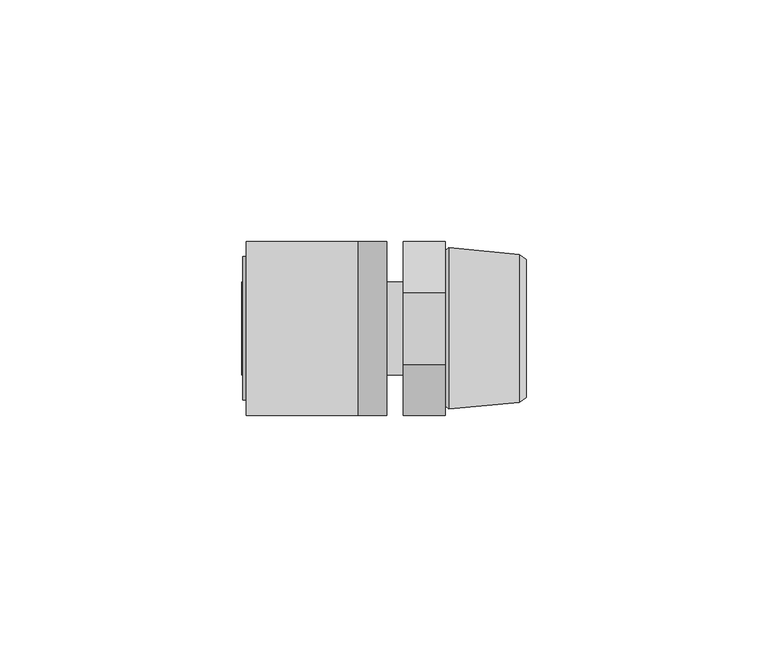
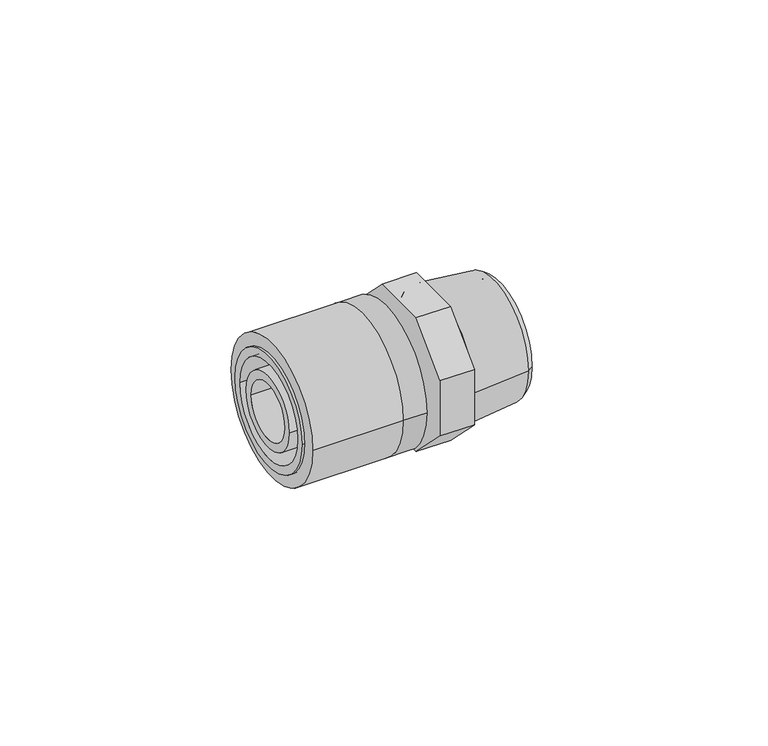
"""IFC4 building model written with IfcOpenShell, lengths in millimetres: pipe fitting geometry, FASTLOC_Adapter_RX+, with external thread : FSL A C external EX+ AT."""

from ifc_helpers import new_model, si_unit, point, frame, origin, origin_2d, place, context, project, spatial, polyline, circle_curve, trimmed, segment, composite_curve, outline, extrude, source, transform, mapped, element, save
from ifc_brep_helpers import plane_surface, cylinder_surface, revolved_surface, advanced_brep


def pipe_fitting_431f7250(model_context):
    return source(origin(), model_context, "Body", "SolidModel", [
        extrude(outline(composite_curve([segment(trimmed(circle_curve(origin_2d(), 18.0), [point((18.0, 0.0))], [point((-18.0, 0.0))], False, "CARTESIAN"), True, "CONTINUOUS"), segment(trimmed(circle_curve(origin_2d(), 18.0), [point((-18.0, 0.0))], [point((18.0, 0.0))], False, "CARTESIAN"), True, "CONTINUOUS")], self_intersect=False), holes=[composite_curve([segment(trimmed(circle_curve(origin_2d(), 13.5), [point((13.5, 0.0))], [point((-13.5, 0.0))], True, "CARTESIAN"), True, "CONTINUOUS"), segment(trimmed(circle_curve(origin_2d(), 13.5), [point((-13.5, 0.0))], [point((13.5, 0.0))], True, "CARTESIAN"), True, "CONTINUOUS")], self_intersect=False)]), frame((-32.4, 0.0, 0.0), z_axis=(1.0, 0.0, 0.0), x_axis=(0.0, 1.0, 0.0)), (0.0, 0.0, 1.0), 23.0),
        advanced_brep(
        [(-9.4, -18.0, 0.0), (-9.4, 18.0, 0.0), (-3.4, 18.0, 0.0), (-3.4, -18.0, 0.0), (-33.2, -14.85, 0.0), (-33.2, 14.85, 0.0), (-9.4, 14.85, 0.0), (-9.4, -14.85, 0.0), (-3.4, -12.65, 0.0), (-3.4, 12.65, 0.0), (-33.2, 12.65, 0.0), (-33.2, -12.65, 0.0)],
        [
            (0, 1, circle_curve(frame((-9.4, 0.0, 0.0), z_axis=(1.0, 0.0, 0.0), x_axis=(0.0, 1.0, 0.0)), 18.0)),
            (1, 2),
            (2, 3, circle_curve(frame((-3.4, 0.0, 0.0), z_axis=(-1.0, 0.0, 0.0), x_axis=(0.0, 1.0, 0.0)), 18.0)),
            (3, 0),
            (4, 5, circle_curve(frame((-33.2, 0.0, 0.0), z_axis=(1.0, 0.0, 0.0), x_axis=(0.0, 1.0, 0.0)), 14.85)),
            (5, 6),
            (6, 7, circle_curve(frame((-9.4, 0.0, 0.0), z_axis=(-1.0, 0.0, 0.0), x_axis=(0.0, 1.0, 0.0)), 14.85)),
            (7, 4),
            (8, 9, circle_curve(frame((-3.4, 0.0, 0.0), z_axis=(1.0, 0.0, 0.0), x_axis=(0.0, 1.0, 0.0)), 12.65)),
            (9, 10),
            (10, 11, circle_curve(frame((-33.2, 0.0, 0.0), z_axis=(-1.0, 0.0, 0.0), x_axis=(0.0, 1.0, 0.0)), 12.65)),
            (11, 8),
            (1, 0, circle_curve(frame((-9.4, 0.0, 0.0), z_axis=(1.0, 0.0, 0.0), x_axis=(0.0, -1.0, 0.0)), 18.0)),
            (3, 2, circle_curve(frame((-3.4, 0.0, 0.0), z_axis=(-1.0, 0.0, 0.0), x_axis=(0.0, -1.0, 0.0)), 18.0)),
            (6, 7, circle_curve(frame((-9.4, 0.0, 0.0), z_axis=(1.0, 0.0, 0.0), x_axis=(0.0, -1.0, 0.0)), 14.85)),
            (5, 4, circle_curve(frame((-33.2, 0.0, 0.0), z_axis=(1.0, 0.0, 0.0), x_axis=(0.0, -1.0, 0.0)), 14.85)),
            (10, 11, circle_curve(frame((-33.2, 0.0, 0.0), z_axis=(1.0, 0.0, 0.0), x_axis=(0.0, -1.0, 0.0)), 12.65)),
            (9, 8, circle_curve(frame((-3.4, 0.0, 0.0), z_axis=(1.0, 0.0, 0.0), x_axis=(0.0, -1.0, 0.0)), 12.65)),
        ],
        [
            cylinder_surface(frame((-3.4, 0.0, 0.0), z_axis=(-1.0, 0.0, 0.0), x_axis=(0.0, 1.0, 0.0)), 18.0),
            cylinder_surface(frame((-3.4, 0.0, 0.0), z_axis=(-1.0, 0.0, 0.0), x_axis=(0.0, 1.0, 0.0)), 14.85),
            revolved_surface(polyline([(-33.2, 12.65, 0.0), (-3.4, 12.65, 0.0)]), (-3.4, 0.0, 0.0), (-1.0, 0.0, 0.0)),
            cylinder_surface(frame((-3.4, 0.0, 0.0), z_axis=(-1.0, 0.0, 0.0), x_axis=(0.0, -1.0, 0.0)), 18.0),
            plane_surface(frame((-9.4, 0.0, 0.0), z_axis=(-1.0, 0.0, 0.0), x_axis=(0.0, -1.0, 0.0))),
            cylinder_surface(frame((-3.4, 0.0, 0.0), z_axis=(-1.0, 0.0, 0.0), x_axis=(0.0, -1.0, 0.0)), 14.85),
            plane_surface(frame((-33.2, 0.0, 0.0), z_axis=(-1.0, 0.0, 0.0), x_axis=(0.0, -1.0, 0.0))),
            revolved_surface(polyline([(-33.2, -12.65, 0.0), (-3.4, -12.65, 0.0)]), (-3.4, 0.0, 0.0), (-1.0, 0.0, 0.0)),
            plane_surface(frame((-3.4, 0.0, 0.0), z_axis=(1.0, 0.0, 0.0), x_axis=(0.0, -1.0, 0.0))),
        ],
        [
            (0, [[1, 2, 3, 4]]),
            (1, [[5, 6, 7, 8]]),
            (2, [[9, 10, 11, 12]]),
            (3, [[13, -4, 14, -2]]),
            (4, [[-13, -1], [15, -7]]),
            (5, [[16, -8, -15, -6]]),
            (6, [[-16, -5], [17, -11]]),
            (7, [[18, -12, -17, -10]]),
            (8, [[-14, -3], [-18, -9]]),
        ],
    ),
        advanced_brep(
        [(9.8032803, 12.75, 0.0), (9.8032803, -12.75, 0.0), (25.5, -12.75, 0.0), (25.5, 12.75, 0.0), (8.7, 11.6467197, 0.0), (8.7, -11.6467197, 0.0), (9.4406902, 16.7, 0.0), (9.4406902, -16.7, 0.0), (8.7, -16.1, 0.0), (8.7, 16.1, 0.0), (24.0000007, 15.3, 0.0), (24.0000007, -15.3, 0.0), (25.5, 14.3, 0.0), (25.5, -14.3, 0.0)],
        [
            (0, 1, circle_curve(frame((9.8032803, 0.0, 0.0), z_axis=(-1.0, 0.0, 0.0), x_axis=(0.0, -1.0, 0.0)), 12.75)),
            (1, 2),
            (2, 3, circle_curve(frame((25.5, 0.0, 0.0), z_axis=(1.0, 0.0, 0.0), x_axis=(0.0, -1.0, 0.0)), 12.75)),
            (3, 0),
            (4, 5, circle_curve(frame((8.7, 0.0, 0.0), z_axis=(-1.0, 0.0, 0.0), x_axis=(0.0, -1.0, 0.0)), 11.6467197)),
            (5, 1),
            (0, 4),
            (6, 7, circle_curve(frame((9.4406902, 0.0, 0.0), z_axis=(-1.0, 0.0, 0.0), x_axis=(0.0, -1.0, 0.0)), 16.7)),
            (7, 8),
            (8, 9, circle_curve(frame((8.7, 0.0, 0.0), z_axis=(1.0, 0.0, 0.0), x_axis=(0.0, -1.0, 0.0)), 16.1)),
            (9, 6),
            (10, 11, circle_curve(frame((24.0000007, 0.0, 0.0), z_axis=(-1.0, 0.0, 0.0), x_axis=(0.0, -1.0, 0.0)), 15.3)),
            (11, 7),
            (6, 10),
            (12, 13, circle_curve(frame((25.5, 0.0, 0.0), z_axis=(-1.0, 0.0, 0.0), x_axis=(0.0, -1.0, 0.0)), 14.3)),
            (13, 11),
            (10, 12),
            (1, 0, circle_curve(frame((9.8032803, 0.0, 0.0), z_axis=(-1.0, 0.0, 0.0), x_axis=(0.0, 1.0, 0.0)), 12.75)),
            (3, 2, circle_curve(frame((25.5, 0.0, 0.0), z_axis=(1.0, 0.0, 0.0), x_axis=(0.0, 1.0, 0.0)), 12.75)),
            (5, 4, circle_curve(frame((8.7, 0.0, 0.0), z_axis=(-1.0, 0.0, 0.0), x_axis=(0.0, 1.0, 0.0)), 11.6467197)),
            (8, 9, circle_curve(frame((8.7, 0.0, 0.0), z_axis=(-1.0, 0.0, 0.0), x_axis=(0.0, 1.0, 0.0)), 16.1)),
            (7, 6, circle_curve(frame((9.4406902, 0.0, 0.0), z_axis=(-1.0, 0.0, 0.0), x_axis=(0.0, 1.0, 0.0)), 16.7)),
            (11, 10, circle_curve(frame((24.0000007, 0.0, 0.0), z_axis=(-1.0, 0.0, 0.0), x_axis=(0.0, 1.0, 0.0)), 15.3)),
            (13, 12, circle_curve(frame((25.5, 0.0, 0.0), z_axis=(-1.0, 0.0, 0.0), x_axis=(0.0, 1.0, 0.0)), 14.3)),
        ],
        [
            revolved_surface(polyline([(25.5, -12.75, 0.0), (9.8032803, -12.75, 0.0)]), (0.0, 0.0, 0.0), (1.0, 0.0, 0.0)),
            revolved_surface(polyline([(9.8032803, -12.75, 0.0), (8.7, -11.6467197, 0.0)]), (0.0, 0.0, 0.0), (1.0, 0.0, 0.0)),
            revolved_surface(polyline([(8.7, -16.1, 0.0), (9.4406902, -16.7, 0.0)]), (0.0, 0.0, 0.0), (1.0, 0.0, 0.0)),
            revolved_surface(polyline([(9.4406902, -16.7, 0.0), (24.0000007, -15.3, 0.0)]), (0.0, 0.0, 0.0), (1.0, 0.0, 0.0)),
            revolved_surface(polyline([(24.0000007, -15.3, 0.0), (25.5, -14.3, 0.0)]), (0.0, 0.0, 0.0), (1.0, 0.0, 0.0)),
            revolved_surface(polyline([(25.5, 12.75, 0.0), (9.8032803, 12.75, 0.0)]), (0.0, 0.0, 0.0), (1.0, 0.0, 0.0)),
            revolved_surface(polyline([(9.8032803, 12.75, 0.0), (8.7, 11.6467197, 0.0)]), (0.0, 0.0, 0.0), (1.0, 0.0, 0.0)),
            plane_surface(frame((8.7, 0.0, 0.0), z_axis=(-1.0, 0.0, 0.0), x_axis=(0.0, 1.0, 0.0))),
            revolved_surface(polyline([(8.7, 16.1, 0.0), (9.4406902, 16.7, 0.0)]), (0.0, 0.0, 0.0), (1.0, 0.0, 0.0)),
            revolved_surface(polyline([(9.4406902, 16.7, 0.0), (24.0000007, 15.3, 0.0)]), (0.0, 0.0, 0.0), (1.0, 0.0, 0.0)),
            revolved_surface(polyline([(24.0000007, 15.3, 0.0), (25.5, 14.3, 0.0)]), (0.0, 0.0, 0.0), (1.0, 0.0, 0.0)),
            plane_surface(frame((25.5, 0.0, 0.0), z_axis=(1.0, 0.0, 0.0), x_axis=(0.0, 1.0, 0.0))),
        ],
        [
            (0, [[1, 2, 3, 4]]),
            (1, [[5, 6, -1, 7]]),
            (2, [[8, 9, 10, 11]]),
            (3, [[12, 13, -8, 14]]),
            (4, [[15, 16, -12, 17]]),
            (5, [[18, -4, 19, -2]]),
            (6, [[20, -7, -18, -6]]),
            (7, [[21, -10], [-20, -5]]),
            (8, [[22, -11, -21, -9]]),
            (9, [[23, -14, -22, -13]]),
            (10, [[24, -17, -23, -16]]),
            (11, [[-24, -15], [-19, -3]]),
        ],
    ),
        extrude(outline(polyline([(-18.0, 7.4558441), (-7.4558441, 18.0), (7.4558441, 18.0), (18.0, 7.4558441), (18.0, -7.4558441), (7.4558441, -18.0), (-7.4558441, -18.0), (-18.0, -7.4558441), (-18.0, 7.4558441)])), frame((0.0, 0.0, 0.0), z_axis=(1.0, 0.0, 0.0), x_axis=(0.0, 1.0, 0.0)), (0.0, 0.0, 1.0), 8.7),
        advanced_brep(
        [(-33.4, 7.35, 0.0), (-33.4, -7.35, 0.0), (0.0, -7.35, 0.0), (0.0, 7.35, 0.0), (0.0, 9.6, 0.0), (0.0, -9.6, 0.0), (-6.6, -9.6, 0.0), (-6.6, 9.6, 0.0), (-6.6, 11.1, 0.0), (-6.6, -11.1, 0.0), (-9.4, -11.1, 0.0), (-9.4, 11.1, 0.0), (-9.4, 9.6, 0.0), (-9.4, -9.6, 0.0), (-33.4, -9.6, 0.0), (-33.4, 9.6, 0.0)],
        [
            (0, 1, circle_curve(frame((-33.4, 0.0, 0.0), z_axis=(-1.0, 0.0, 0.0), x_axis=(0.0, -1.0, 0.0)), 7.35)),
            (1, 2),
            (2, 3, circle_curve(frame((0.0, 0.0, 0.0), z_axis=(1.0, 0.0, 0.0), x_axis=(0.0, -1.0, 0.0)), 7.35)),
            (3, 0),
            (4, 5, circle_curve(frame((0.0, 0.0, 0.0), z_axis=(-1.0, 0.0, 0.0), x_axis=(0.0, -1.0, 0.0)), 9.6)),
            (5, 6),
            (6, 7, circle_curve(frame((-6.6, 0.0, 0.0), z_axis=(1.0, 0.0, 0.0), x_axis=(0.0, -1.0, 0.0)), 9.6)),
            (7, 4),
            (8, 9, circle_curve(frame((-6.6, 0.0, 0.0), z_axis=(-1.0, 0.0, 0.0), x_axis=(0.0, -1.0, 0.0)), 11.1)),
            (9, 10),
            (10, 11, circle_curve(frame((-9.4, 0.0, 0.0), z_axis=(1.0, 0.0, 0.0), x_axis=(0.0, -1.0, 0.0)), 11.1)),
            (11, 8),
            (12, 13, circle_curve(frame((-9.4, 0.0, 0.0), z_axis=(-1.0, 0.0, 0.0), x_axis=(0.0, -1.0, 0.0)), 9.6)),
            (13, 14),
            (14, 15, circle_curve(frame((-33.4, 0.0, 0.0), z_axis=(1.0, 0.0, 0.0), x_axis=(0.0, -1.0, 0.0)), 9.6)),
            (15, 12),
            (1, 0, circle_curve(frame((-33.4, 0.0, 0.0), z_axis=(-1.0, 0.0, 0.0), x_axis=(0.0, 1.0, 0.0)), 7.35)),
            (3, 2, circle_curve(frame((0.0, 0.0, 0.0), z_axis=(1.0, 0.0, 0.0), x_axis=(0.0, 1.0, 0.0)), 7.35)),
            (4, 5, circle_curve(frame((0.0, 0.0, 0.0), z_axis=(1.0, 0.0, 0.0), x_axis=(0.0, 1.0, 0.0)), 9.6)),
            (7, 6, circle_curve(frame((-6.6, 0.0, 0.0), z_axis=(1.0, 0.0, 0.0), x_axis=(0.0, 1.0, 0.0)), 9.6)),
            (8, 9, circle_curve(frame((-6.6, 0.0, 0.0), z_axis=(1.0, 0.0, 0.0), x_axis=(0.0, 1.0, 0.0)), 11.1)),
            (11, 10, circle_curve(frame((-9.4, 0.0, 0.0), z_axis=(1.0, 0.0, 0.0), x_axis=(0.0, 1.0, 0.0)), 11.1)),
            (12, 13, circle_curve(frame((-9.4, 0.0, 0.0), z_axis=(1.0, 0.0, 0.0), x_axis=(0.0, 1.0, 0.0)), 9.6)),
            (15, 14, circle_curve(frame((-33.4, 0.0, 0.0), z_axis=(1.0, 0.0, 0.0), x_axis=(0.0, 1.0, 0.0)), 9.6)),
        ],
        [
            revolved_surface(polyline([(0.0, -7.35, 0.0), (-33.4, -7.35, 0.0)]), (0.0, 0.0, 0.0), (1.0, 0.0, 0.0)),
            cylinder_surface(frame((0.0, 0.0, 0.0), z_axis=(1.0, 0.0, 0.0), x_axis=(0.0, -1.0, 0.0)), 9.6),
            cylinder_surface(frame((0.0, 0.0, 0.0), z_axis=(1.0, 0.0, 0.0), x_axis=(0.0, -1.0, 0.0)), 11.1),
            revolved_surface(polyline([(0.0, 7.35, 0.0), (-33.4, 7.35, 0.0)]), (0.0, 0.0, 0.0), (1.0, 0.0, 0.0)),
            plane_surface(frame((0.0, 0.0, 0.0), z_axis=(1.0, 0.0, 0.0), x_axis=(0.0, 1.0, 0.0))),
            cylinder_surface(frame((0.0, 0.0, 0.0), z_axis=(1.0, 0.0, 0.0), x_axis=(0.0, 1.0, 0.0)), 9.6),
            plane_surface(frame((-6.6, 0.0, 0.0), z_axis=(1.0, 0.0, 0.0), x_axis=(0.0, 1.0, 0.0))),
            cylinder_surface(frame((0.0, 0.0, 0.0), z_axis=(1.0, 0.0, 0.0), x_axis=(0.0, 1.0, 0.0)), 11.1),
            plane_surface(frame((-9.4, 0.0, 0.0), z_axis=(-1.0, 0.0, 0.0), x_axis=(0.0, 1.0, 0.0))),
            plane_surface(frame((-33.4, 0.0, 0.0), z_axis=(-1.0, 0.0, 0.0), x_axis=(0.0, 1.0, 0.0))),
        ],
        [
            (0, [[1, 2, 3, 4]]),
            (1, [[5, 6, 7, 8]]),
            (2, [[9, 10, 11, 12]]),
            (1, [[13, 14, 15, 16]]),
            (3, [[17, -4, 18, -2]]),
            (4, [[19, -5], [-18, -3]]),
            (5, [[-19, -8, 20, -6]]),
            (6, [[21, -9], [-20, -7]]),
            (7, [[-21, -12, 22, -10]]),
            (8, [[-22, -11], [23, -13]]),
            (5, [[-23, -16, 24, -14]]),
            (9, [[-24, -15], [-17, -1]]),
        ],
    ),
    ])


if __name__ == "__main__":
    model = new_model("IFC4")
    model_context = context("Model", 3, world=origin())
    ifc_project = project(units=[si_unit("LENGTHUNIT", "METRE", prefix="MILLI")], contexts=[model_context])
    site = spatial("IfcSite", under=ifc_project)
    building = spatial("IfcBuilding", under=site)
    placement = place(None, origin())
    pipe_fitting_shape = pipe_fitting_431f7250(model_context)
    element("IfcPipeFitting", 1, ObjectType="FASTLOC_Adapter_RX+, with external thread : FSL A C external EX+ AT", at=placement, inside=building, context=model_context, shape_type="MappedRepresentation", body=[
        mapped(pipe_fitting_shape, transform((0.0, 0.0, 0.0), x_axis=(1.0, 0.0, 0.0), y_axis=(0.0, 1.0, 0.0), z_axis=(0.0, 0.0, 1.0))),
    ])
    save(model, "model.ifc")
